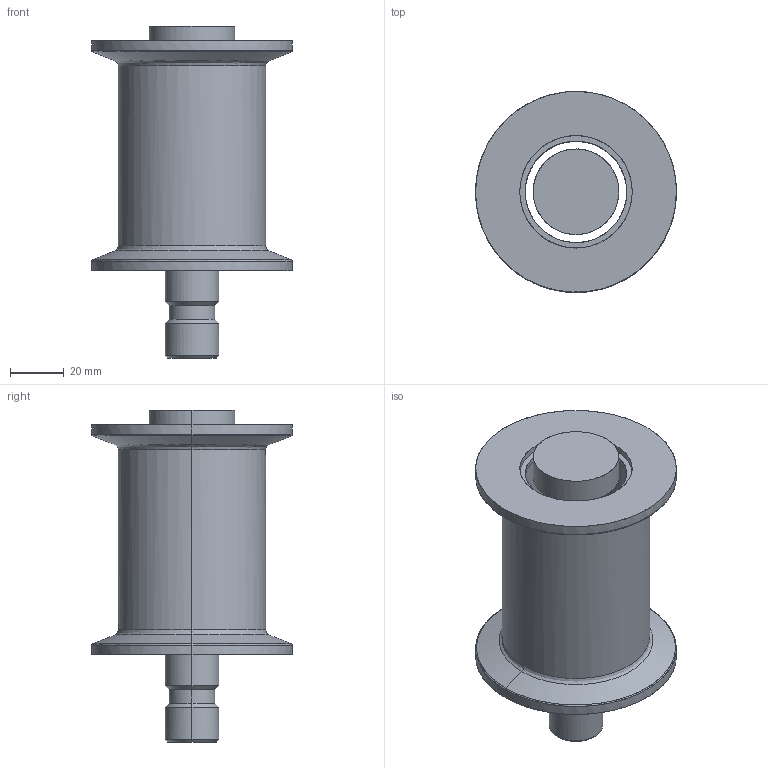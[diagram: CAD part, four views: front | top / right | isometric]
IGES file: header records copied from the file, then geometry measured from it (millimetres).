
Global section: file name: E:\UnigraphicsGraphicData\MISUMI_PRESS-PARTS\IGES\3d_gdrtbt55-70_03790_r00.igs; native system: NX V5.0; preprocessor: UGS NX IGES V5.0; author: MISUMI; date: 20110105.160709; units: millimetre
Bounding box: 75 x 75 x 124 mm (x, y, z)
Surface area: 49594.8 mm2 (no closed solid volume)
Topology: 0 solids, 0 shells, 73 faces, 744 edges, 744 vertices
Faces by surface type: bspline 73
